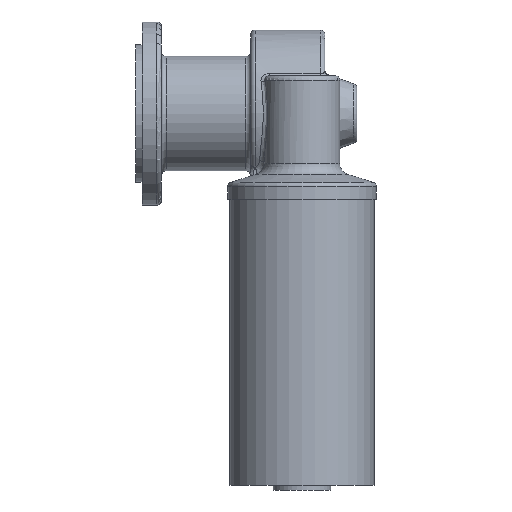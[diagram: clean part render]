
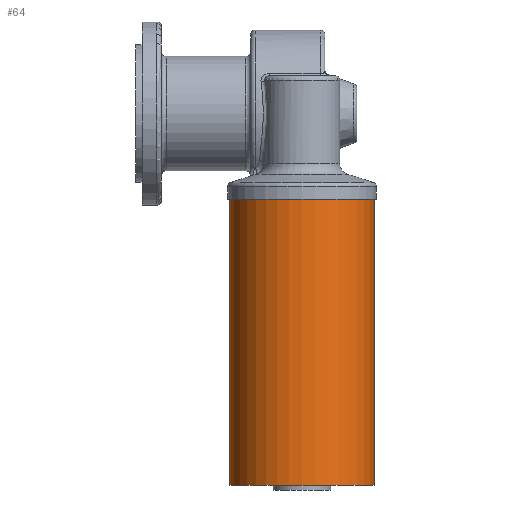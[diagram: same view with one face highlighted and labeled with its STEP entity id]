
A CAD part, front view. The second image highlights one B-rep face of the part: STEP entity #64.
In plain terms, the highlighted cylindrical face has radius 31.5 mm (diameter 63 mm), a partial arc.
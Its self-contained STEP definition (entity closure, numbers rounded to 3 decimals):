
#45 = EDGE_LOOP ( 'NONE', ( #68, #69, #80, #81 ) ) ;
#54 = EDGE_CURVE ( 'NONE', #79, #57, #1048, .T. ) ;
#57 = VERTEX_POINT ( 'NONE', #1042 ) ;
#62 = VERTEX_POINT ( 'NONE', #1086 ) ;
#64 = ADVANCED_FACE ( 'NONE', ( #1085 ), #1084, .T. ) ;
#68 = ORIENTED_EDGE ( 'NONE', *, *, #54, .F. ) ;
#69 = ORIENTED_EDGE ( 'NONE', *, *, #106, .T. ) ;
#79 = VERTEX_POINT ( 'NONE', #1115 ) ;
#80 = ORIENTED_EDGE ( 'NONE', *, *, #124, .T. ) ;
#81 = ORIENTED_EDGE ( 'NONE', *, *, #114, .F. ) ;
#106 = EDGE_CURVE ( 'NONE', #79, #111, #1181, .T. ) ;
#111 = VERTEX_POINT ( 'NONE', #1167 ) ;
#114 = EDGE_CURVE ( 'NONE', #57, #62, #1165, .T. ) ;
#124 = EDGE_CURVE ( 'NONE', #111, #62, #1204, .T. ) ;
#1042 = CARTESIAN_POINT ( 'NONE',  ( -32.883, -0.553, 0. ) ) ;
#1045 = DIRECTION ( 'NONE',  ( 0., 0., 1. ) ) ;
#1046 = VECTOR ( 'NONE', #1045, 1000. ) ;
#1047 = CARTESIAN_POINT ( 'NONE',  ( -32.883, -0.553, -125. ) ) ;
#1048 = LINE ( 'NONE', #1047, #1046 ) ;
#1079 = DIRECTION ( 'NONE',  ( 1., 0., 0. ) ) ;
#1080 = DIRECTION ( 'NONE',  ( 0., 0., 1. ) ) ;
#1081 = CARTESIAN_POINT ( 'NONE',  ( -1.383, -0.553, -125. ) ) ;
#1082 = AXIS2_PLACEMENT_3D ( 'NONE', #1081, #1080, #1079 ) ;
#1084 = CYLINDRICAL_SURFACE ( 'NONE', #1082, 31.5 ) ;
#1085 = FACE_OUTER_BOUND ( 'NONE', #45, .T. ) ;
#1086 = CARTESIAN_POINT ( 'NONE',  ( 30.117, -0.553, 0. ) ) ;
#1115 = CARTESIAN_POINT ( 'NONE',  ( -32.883, -0.553, -125. ) ) ;
#1161 = DIRECTION ( 'NONE',  ( 1., 0., 0. ) ) ;
#1162 = DIRECTION ( 'NONE',  ( 0., 0., 1. ) ) ;
#1163 = CARTESIAN_POINT ( 'NONE',  ( -1.383, -0.553, 0. ) ) ;
#1164 = AXIS2_PLACEMENT_3D ( 'NONE', #1163, #1162, #1161 ) ;
#1165 = CIRCLE ( 'NONE', #1164, 31.5 ) ;
#1167 = CARTESIAN_POINT ( 'NONE',  ( 30.117, -0.553, -125. ) ) ;
#1177 = DIRECTION ( 'NONE',  ( 1., 0., 0. ) ) ;
#1178 = DIRECTION ( 'NONE',  ( 0., 0., 1. ) ) ;
#1179 = CARTESIAN_POINT ( 'NONE',  ( -1.383, -0.553, -125. ) ) ;
#1180 = AXIS2_PLACEMENT_3D ( 'NONE', #1179, #1178, #1177 ) ;
#1181 = CIRCLE ( 'NONE', #1180, 31.5 ) ;
#1201 = DIRECTION ( 'NONE',  ( 0., 0., 1. ) ) ;
#1202 = VECTOR ( 'NONE', #1201, 1000. ) ;
#1203 = CARTESIAN_POINT ( 'NONE',  ( 30.117, -0.553, -125. ) ) ;
#1204 = LINE ( 'NONE', #1203, #1202 ) ;
